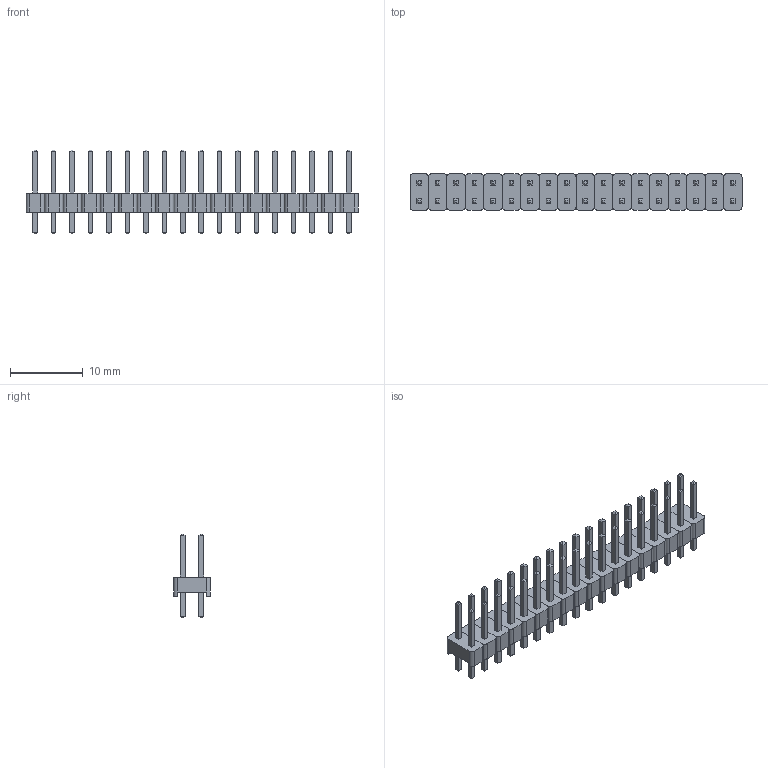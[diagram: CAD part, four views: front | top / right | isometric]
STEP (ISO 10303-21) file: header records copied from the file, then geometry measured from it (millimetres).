
FILE_DESCRIPTION(('FreeCAD Model'),'2;1');
FILE_NAME('Open CASCADE Shape Model','2022-04-06T15:59:37',( 'Engenharia Metaltex'),('Metaltex'), 'Open CASCADE STEP processor 7.5','FreeCAD','Unknown');
FILE_SCHEMA(('AUTOMOTIVE_DESIGN { 1 0 10303 214 1 1 1 1 }'));
Length unit declared in the file: millimetre
Products named in the file (73): BPDC; 18; Base017; Pino035; Pino036; 1; Base; Pino1; Pino2; 2; Base001; Pino003; Pino004; 3; Base002; Pino006; Pino005; 4; Base003; Pino008; Pino007; 5; Base004; Pino009; Pino010; 6; Base005; Pino012; Pino011; 7; Base006; Pino013; Pino014; 8; Base007; Pino015; Pino016; 9; Base008; Pino017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
Assembly tree (72 placements, depth 3):
  BPDC
    18
      Base017
      Pino035
      Pino036
    1
      Base
      Pino1
      Pino2
    2
      Base001
      Pino003
      Pino004
    3
      Base002
      Pino006
      Pino005
    4
      Base003
      Pino008
      Pino007
    5
      Base004
      Pino009
      Pino010
    6
      Base005
      Pino012
      Pino011
    7
      Base006
      Pino013
      Pino014
    8
      Base007
      Pino015
      Pino016
    9
      Base008
      Pino017
      Pino018
    10
      Base009
      Pino019
      Pino020
    11
      Base010
      Pino021
      Pino022
    12
      Base011
      Pino023
      Pino024
    13
      Base012
      Pino025
      Pino026
    14
      Base013
      Pino027
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Bounding box: 45.72 x 5.08 x 11.54 mm (x, y, z)
Volume: 628.6 mm3; surface area: 2315.4 mm2
Topology: 54 solids, 54 shells, 900 faces, 2088 edges, 1296 vertices
Faces by surface type: plane 828, cylinder 72
Entity records: 54019 total; most frequent: CARTESIAN_POINT 8965, DIRECTION 8282, LINE 5976, VECTOR 5976, ORIENTED_EDGE 4176, PCURVE 4176, DEFINITIONAL_REPRESENTATION 4176, EDGE_CURVE 2088
